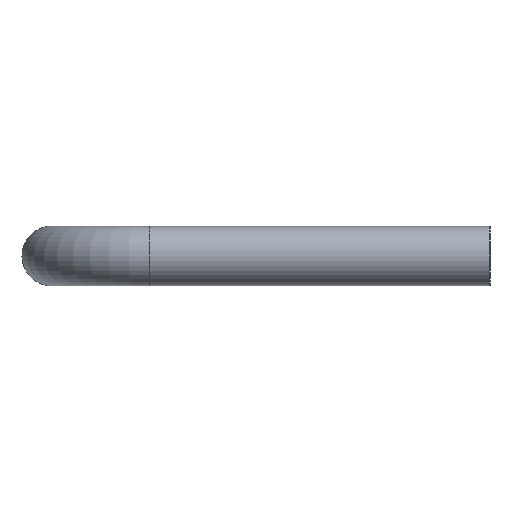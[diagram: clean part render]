
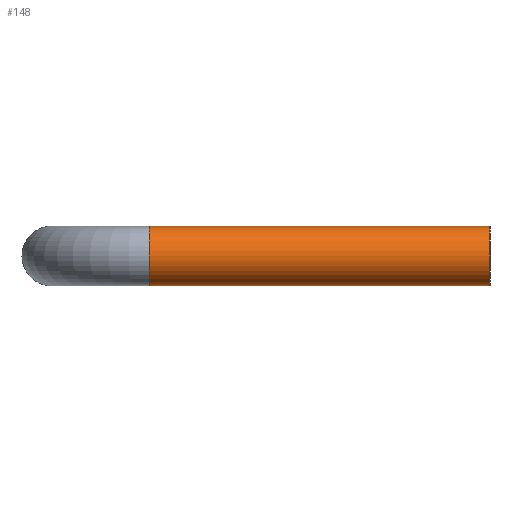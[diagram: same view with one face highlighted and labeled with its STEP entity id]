
A CAD part, left-side view. The second image highlights one B-rep face of the part: STEP entity #148.
In plain terms, the highlighted cylindrical face has radius 8 mm (diameter 16 mm), a full revolution.
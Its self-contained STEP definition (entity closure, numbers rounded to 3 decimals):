
#28=CYLINDRICAL_SURFACE('',#176,8.);
#35=ORIENTED_EDGE('',*,*,#59,.F.);
#36=ORIENTED_EDGE('',*,*,#57,.T.);
#57=EDGE_CURVE('',#69,#69,#83,.T.);
#59=EDGE_CURVE('',#71,#71,#85,.T.);
#69=VERTEX_POINT('',#253);
#71=VERTEX_POINT('',#258);
#83=CIRCLE('',#174,8.);
#85=CIRCLE('',#177,8.);
#97=EDGE_LOOP('',(#35));
#98=EDGE_LOOP('',(#36));
#121=FACE_BOUND('',#97,.T.);
#122=FACE_BOUND('',#98,.T.);
#148=ADVANCED_FACE('',(#121,#122),#28,.T.);
#174=AXIS2_PLACEMENT_3D('',#252,#202,#203);
#176=AXIS2_PLACEMENT_3D('',#256,#206,#207);
#177=AXIS2_PLACEMENT_3D('',#257,#208,#209);
#202=DIRECTION('',(0.,1.,0.));
#203=DIRECTION('',(0.,0.,1.));
#206=DIRECTION('',(0.,1.,0.));
#207=DIRECTION('',(0.,0.,1.));
#208=DIRECTION('',(0.,1.,0.));
#209=DIRECTION('',(0.,0.,1.));
#252=CARTESIAN_POINT('',(-80.,0.,0.));
#253=CARTESIAN_POINT('',(-80.,0.,8.));
#256=CARTESIAN_POINT('',(-80.,91.,0.));
#257=CARTESIAN_POINT('',(-80.,91.,0.));
#258=CARTESIAN_POINT('',(-80.,91.,8.));
